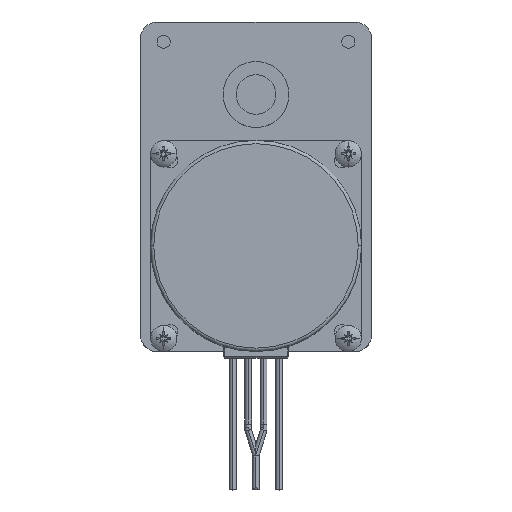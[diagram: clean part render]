
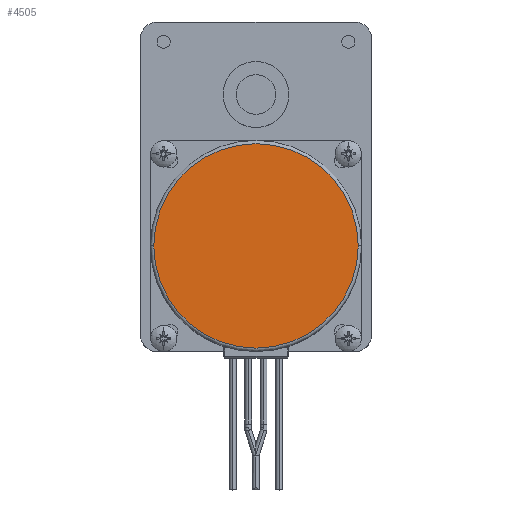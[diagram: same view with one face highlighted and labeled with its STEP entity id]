
A CAD part, top view. The second image highlights one B-rep face of the part: STEP entity #4505.
In plain terms, the highlighted planar face has unit normal (0, 0, 1) as drawn and (0, 0, -1) by its records, which use the part's own axes.
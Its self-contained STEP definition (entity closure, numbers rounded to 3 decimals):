
#244 = CIRCLE ( 'NONE', #6788, 31. ) ;
#1160 = CARTESIAN_POINT ( 'NONE',  ( 0., 0., -43.5 ) ) ;
#1553 = EDGE_CURVE ( 'NONE', #8151, #4819, #244, .T. ) ;
#1580 = CARTESIAN_POINT ( 'NONE',  ( 31., 0., -43.5 ) ) ;
#1740 = AXIS2_PLACEMENT_3D ( 'NONE', #3157, #9095, #3082 ) ;
#2750 = PLANE ( 'NONE',  #10134 ) ;
#2766 = CARTESIAN_POINT ( 'NONE',  ( -31., 0., -43.5 ) ) ;
#2901 = DIRECTION ( 'NONE',  ( 1., 0., 0. ) ) ;
#3082 = DIRECTION ( 'NONE',  ( 1., 0., 0. ) ) ;
#3157 = CARTESIAN_POINT ( 'NONE',  ( 0., 0., -43.5 ) ) ;
#3269 = EDGE_CURVE ( 'NONE', #4819, #8151, #6235, .T. ) ;
#3644 = EDGE_LOOP ( 'NONE', ( #9506, #5768 ) ) ;
#3651 = CARTESIAN_POINT ( 'NONE',  ( 0., 32., -43.5 ) ) ;
#4505 = ADVANCED_FACE ( 'NONE', ( #5684 ), #2750, .F. ) ;
#4819 = VERTEX_POINT ( 'NONE', #1580 ) ;
#5684 = FACE_OUTER_BOUND ( 'NONE', #3644, .T. ) ;
#5768 = ORIENTED_EDGE ( 'NONE', *, *, #1553, .T. ) ;
#6235 = CIRCLE ( 'NONE', #1740, 31. ) ;
#6788 = AXIS2_PLACEMENT_3D ( 'NONE', #1160, #7027, #10274 ) ;
#7022 = DIRECTION ( 'NONE',  ( 0., 0., 1. ) ) ;
#7027 = DIRECTION ( 'NONE',  ( 0., 0., -1. ) ) ;
#8151 = VERTEX_POINT ( 'NONE', #2766 ) ;
#9095 = DIRECTION ( 'NONE',  ( 0., 0., -1. ) ) ;
#9506 = ORIENTED_EDGE ( 'NONE', *, *, #3269, .T. ) ;
#10134 = AXIS2_PLACEMENT_3D ( 'NONE', #3651, #7022, #2901 ) ;
#10274 = DIRECTION ( 'NONE',  ( 1., 0., 0. ) ) ;
